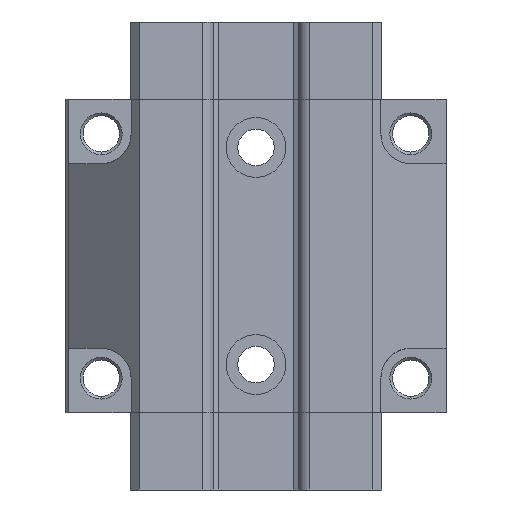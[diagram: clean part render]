
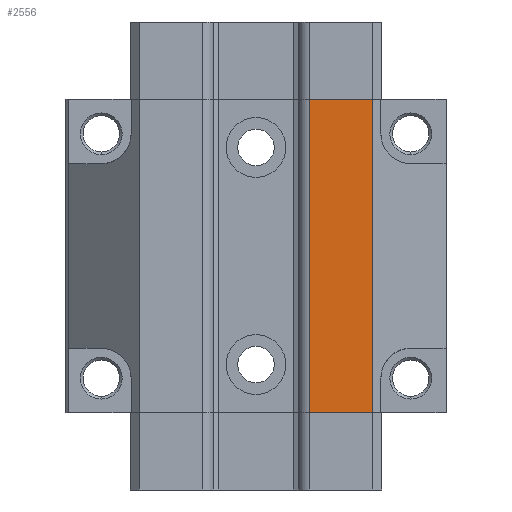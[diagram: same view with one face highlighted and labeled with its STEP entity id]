
A CAD part, front view. The second image highlights one B-rep face of the part: STEP entity #2556.
In plain terms, the highlighted planar face has unit normal (0, -1, 0).
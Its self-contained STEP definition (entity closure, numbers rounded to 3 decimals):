
#2494 = ORIENTED_EDGE ( 'NONE', *, *, #2508, .T. ) ;
#2500 = VERTEX_POINT ( 'NONE', #6357 ) ;
#2501 = VERTEX_POINT ( 'NONE', #6271 ) ;
#2503 = EDGE_CURVE ( 'NONE', #2509, #2504, #6396, .T. ) ;
#2504 = VERTEX_POINT ( 'NONE', #6352 ) ;
#2505 = ORIENTED_EDGE ( 'NONE', *, *, #2506, .F. ) ;
#2506 = EDGE_CURVE ( 'NONE', #2501, #2504, #6395, .T. ) ;
#2508 = EDGE_CURVE ( 'NONE', #2500, #2509, #6377, .T. ) ;
#2509 = VERTEX_POINT ( 'NONE', #6378 ) ;
#2510 = ORIENTED_EDGE ( 'NONE', *, *, #2503, .T. ) ;
#2556 = ADVANCED_FACE ( 'NONE', ( #6306 ), #6376, .F. ) ;
#2557 = ORIENTED_EDGE ( 'NONE', *, *, #2558, .F. ) ;
#2558 = EDGE_CURVE ( 'NONE', #2500, #2501, #6371, .T. ) ;
#2611 = EDGE_LOOP ( 'NONE', ( #2557, #2494, #2510, #2505 ) ) ;
#6271 = CARTESIAN_POINT ( 'NONE',  ( 21.5, -14.95, 28.9 ) ) ;
#6303 = DIRECTION ( 'NONE',  ( 0., 0., -1. ) ) ;
#6306 = FACE_OUTER_BOUND ( 'NONE', #2611, .T. ) ;
#6325 = DIRECTION ( 'NONE',  ( 1., 0., 0. ) ) ;
#6326 = VECTOR ( 'NONE', #6325, 1000. ) ;
#6327 = CARTESIAN_POINT ( 'NONE',  ( -21.5, -14.95, -28.9 ) ) ;
#6352 = CARTESIAN_POINT ( 'NONE',  ( 21.5, -14.95, -28.9 ) ) ;
#6357 = CARTESIAN_POINT ( 'NONE',  ( 9.85, -14.95, 28.9 ) ) ;
#6370 = CARTESIAN_POINT ( 'NONE',  ( -21.5, -14.95, 28.9 ) ) ;
#6371 = LINE ( 'NONE', #6370, #6403 ) ;
#6372 = DIRECTION ( 'NONE',  ( 0., 0., 1. ) ) ;
#6373 = DIRECTION ( 'NONE',  ( 0., 1., 0. ) ) ;
#6374 = CARTESIAN_POINT ( 'NONE',  ( -21.5, -14.95, 28.9 ) ) ;
#6375 = AXIS2_PLACEMENT_3D ( 'NONE', #6374, #6373, #6372 ) ;
#6376 = PLANE ( 'NONE',  #6375 ) ;
#6377 = LINE ( 'NONE', #6381, #6380 ) ;
#6378 = CARTESIAN_POINT ( 'NONE',  ( 9.85, -14.95, -28.9 ) ) ;
#6379 = DIRECTION ( 'NONE',  ( 0., 0., -1. ) ) ;
#6380 = VECTOR ( 'NONE', #6379, 1000. ) ;
#6381 = CARTESIAN_POINT ( 'NONE',  ( 9.85, -14.95, 28.9 ) ) ;
#6393 = VECTOR ( 'NONE', #6303, 1000. ) ;
#6394 = CARTESIAN_POINT ( 'NONE',  ( 21.5, -14.95, 28.9 ) ) ;
#6395 = LINE ( 'NONE', #6394, #6393 ) ;
#6396 = LINE ( 'NONE', #6327, #6326 ) ;
#6402 = DIRECTION ( 'NONE',  ( 1., 0., 0. ) ) ;
#6403 = VECTOR ( 'NONE', #6402, 1000. ) ;
